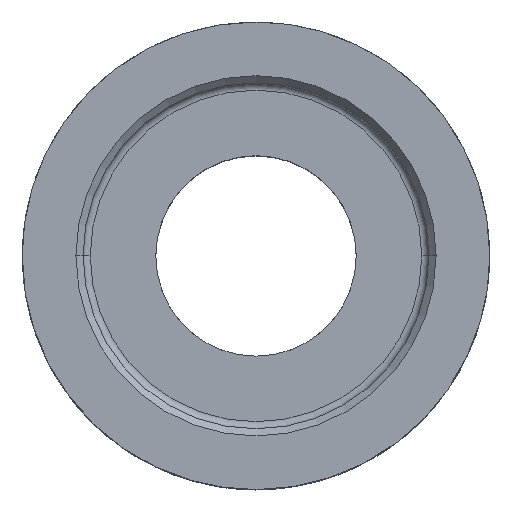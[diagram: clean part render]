
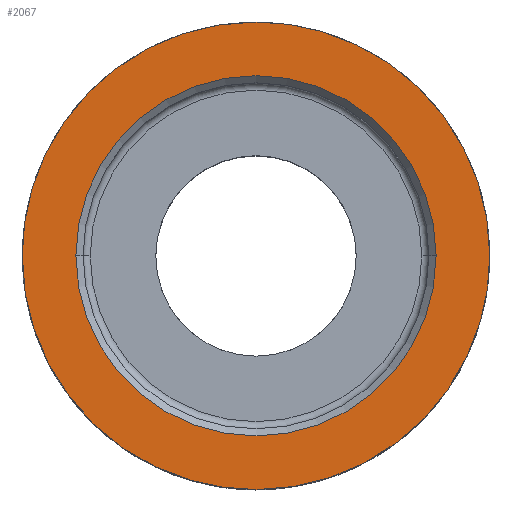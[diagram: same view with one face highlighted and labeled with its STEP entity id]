
A CAD part, top view. The second image highlights one B-rep face of the part: STEP entity #2067.
In plain terms, the highlighted planar face has unit normal (0, 0, 1).
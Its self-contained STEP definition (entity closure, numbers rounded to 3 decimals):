
#2041=AXIS2_PLACEMENT_3D('Plane Axis2P3D',#2038,#2039,#2040) ;
#2051=AXIS2_PLACEMENT_3D('Circle Axis2P3D',#2049,#2050,$) ;
#2060=AXIS2_PLACEMENT_3D('Circle Axis2P3D',#2058,#2059,$) ;
#409=CARTESIAN_POINT('Vertex',(0.,-9.8,6.9)) ;
#413=CARTESIAN_POINT('Control Point',(-9.8,0.,6.9)) ;
#414=CARTESIAN_POINT('Control Point',(-9.8,-3.079,6.9)) ;
#415=CARTESIAN_POINT('Control Point',(-8.594,-6.16,6.9)) ;
#416=CARTESIAN_POINT('Control Point',(-6.16,-8.594,6.9)) ;
#417=CARTESIAN_POINT('Control Point',(-3.079,-9.8,6.9)) ;
#418=CARTESIAN_POINT('Control Point',(0.,-9.8,6.9)) ;
#419=CARTESIAN_POINT('Vertex',(-9.8,0.,6.9)) ;
#463=CARTESIAN_POINT('Vertex',(9.8,0.,6.9)) ;
#467=CARTESIAN_POINT('Control Point',(0.,-9.8,6.9)) ;
#468=CARTESIAN_POINT('Control Point',(3.079,-9.8,6.9)) ;
#469=CARTESIAN_POINT('Control Point',(6.16,-8.594,6.9)) ;
#470=CARTESIAN_POINT('Control Point',(8.594,-6.16,6.9)) ;
#471=CARTESIAN_POINT('Control Point',(9.8,-3.079,6.9)) ;
#472=CARTESIAN_POINT('Control Point',(9.8,0.,6.9)) ;
#492=CARTESIAN_POINT('Vertex',(0.,9.8,6.9)) ;
#496=CARTESIAN_POINT('Control Point',(9.8,0.,6.9)) ;
#497=CARTESIAN_POINT('Control Point',(9.8,3.079,6.9)) ;
#498=CARTESIAN_POINT('Control Point',(8.594,6.16,6.9)) ;
#499=CARTESIAN_POINT('Control Point',(6.16,8.594,6.9)) ;
#500=CARTESIAN_POINT('Control Point',(3.079,9.8,6.9)) ;
#501=CARTESIAN_POINT('Control Point',(0.,9.8,6.9)) ;
#532=CARTESIAN_POINT('Control Point',(0.,9.8,6.9)) ;
#533=CARTESIAN_POINT('Control Point',(-3.079,9.8,6.9)) ;
#534=CARTESIAN_POINT('Control Point',(-6.16,8.594,6.9)) ;
#535=CARTESIAN_POINT('Control Point',(-8.594,6.16,6.9)) ;
#536=CARTESIAN_POINT('Control Point',(-9.8,3.079,6.9)) ;
#537=CARTESIAN_POINT('Control Point',(-9.8,0.,6.9)) ;
#2038=CARTESIAN_POINT('Axis2P3D Location',(0.,0.,6.9)) ;
#2049=CARTESIAN_POINT('Axis2P3D Location',(0.,0.,6.9)) ;
#2053=CARTESIAN_POINT('Vertex',(-7.55,0.,6.9)) ;
#2055=CARTESIAN_POINT('Vertex',(7.55,0.,6.9)) ;
#2058=CARTESIAN_POINT('Axis2P3D Location',(0.,0.,6.9)) ;
#2039=DIRECTION('Axis2P3D Direction',(0.,0.,1.)) ;
#2040=DIRECTION('Axis2P3D XDirection',(1.,0.,0.)) ;
#2050=DIRECTION('Axis2P3D Direction',(0.,0.,1.)) ;
#2059=DIRECTION('Axis2P3D Direction',(0.,0.,1.)) ;
#2044=ORIENTED_EDGE('',*,*,#538,.F.) ;
#2045=ORIENTED_EDGE('',*,*,#421,.T.) ;
#2046=ORIENTED_EDGE('',*,*,#473,.T.) ;
#2047=ORIENTED_EDGE('',*,*,#502,.F.) ;
#2064=ORIENTED_EDGE('',*,*,#2057,.F.) ;
#2065=ORIENTED_EDGE('',*,*,#2062,.F.) ;
#2066=FACE_BOUND('',#2063,.T.) ;
#2067=ADVANCED_FACE('\X2\96F64EF651E04F554F53\X0\',(#2048,#2066),#2042,.T.) ;
#412=B_SPLINE_CURVE_WITH_KNOTS('',5,(#413,#414,#415,#416,#417,#418),.UNSPECIFIED.,.F.,.U.,(6,6),(-7.697,7.697),.UNSPECIFIED.) ;
#466=B_SPLINE_CURVE_WITH_KNOTS('',5,(#467,#468,#469,#470,#471,#472),.UNSPECIFIED.,.F.,.U.,(6,6),(-7.697,7.697),.UNSPECIFIED.) ;
#495=B_SPLINE_CURVE_WITH_KNOTS('',5,(#496,#497,#498,#499,#500,#501),.UNSPECIFIED.,.F.,.U.,(6,6),(-7.697,7.697),.UNSPECIFIED.) ;
#531=B_SPLINE_CURVE_WITH_KNOTS('',5,(#532,#533,#534,#535,#536,#537),.UNSPECIFIED.,.F.,.U.,(6,6),(-7.697,7.697),.UNSPECIFIED.) ;
#2052=CIRCLE('generated circle',#2051,7.55) ;
#2061=CIRCLE('generated circle',#2060,7.55) ;
#421=EDGE_CURVE('',#420,#410,#412,.T.) ;
#473=EDGE_CURVE('',#410,#464,#466,.T.) ;
#502=EDGE_CURVE('',#493,#464,#495,.F.) ;
#538=EDGE_CURVE('',#420,#493,#531,.F.) ;
#2057=EDGE_CURVE('',#2054,#2056,#2052,.T.) ;
#2062=EDGE_CURVE('',#2056,#2054,#2061,.T.) ;
#2043=EDGE_LOOP('',(#2044,#2045,#2046,#2047)) ;
#2063=EDGE_LOOP('',(#2064,#2065)) ;
#2048=FACE_OUTER_BOUND('',#2043,.T.) ;
#2042=PLANE('Plane',#2041) ;
#410=VERTEX_POINT('',#409) ;
#420=VERTEX_POINT('',#419) ;
#464=VERTEX_POINT('',#463) ;
#493=VERTEX_POINT('',#492) ;
#2054=VERTEX_POINT('',#2053) ;
#2056=VERTEX_POINT('',#2055) ;
